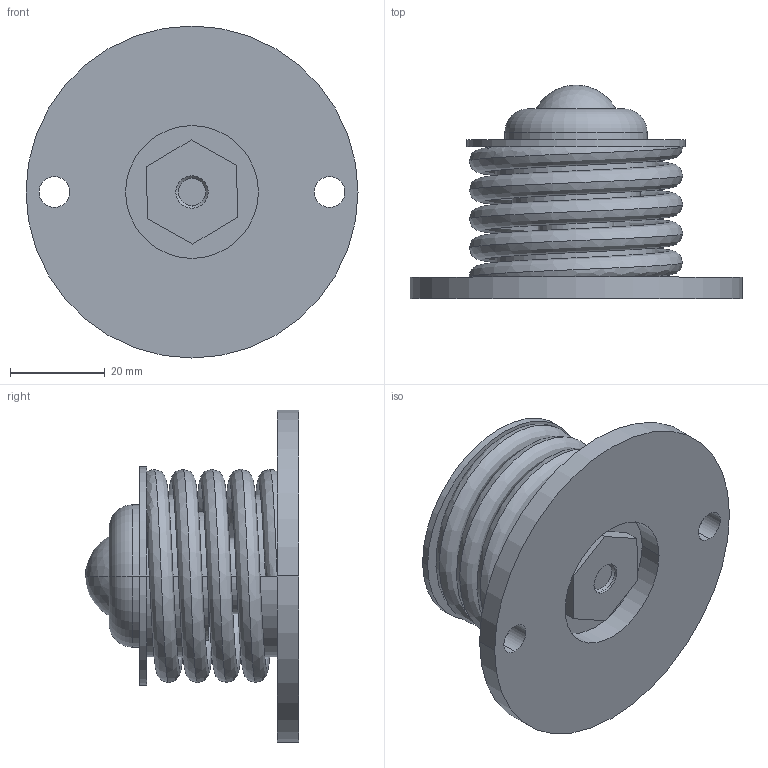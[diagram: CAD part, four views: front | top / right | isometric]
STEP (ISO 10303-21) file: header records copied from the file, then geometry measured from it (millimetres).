
FILE_DESCRIPTION (( 'STEP AP203' ), '1' );
FILE_NAME ('PV50BC.STEP', '2016-01-25T04:56:58', ( '' ), ( '' ), 'SwSTEP 2.0', 'SolidWorks 2013', '' );
FILE_SCHEMA (( 'CONFIG_CONTROL_DESIGN' ));
Length unit declared in the file: millimetre
Products named in the file (1): PV50BC
Bounding box: 70 x 45 x 70 mm (x, y, z)
Volume: 51445.9 mm3; surface area: 23779.3 mm2
Topology: 1 solids, 2 shells, 54 faces, 118 edges, 76 vertices
Faces by surface type: cylinder 24, plane 20, cone 4, bspline 2, torus 2, sphere 2
Entity records: 3821 total; most frequent: CARTESIAN_POINT 2513, DIRECTION 278, ORIENTED_EDGE 232, EDGE_CURVE 116, AXIS2_PLACEMENT_3D 115, VERTEX_POINT 76, EDGE_LOOP 70, CIRCLE 62
